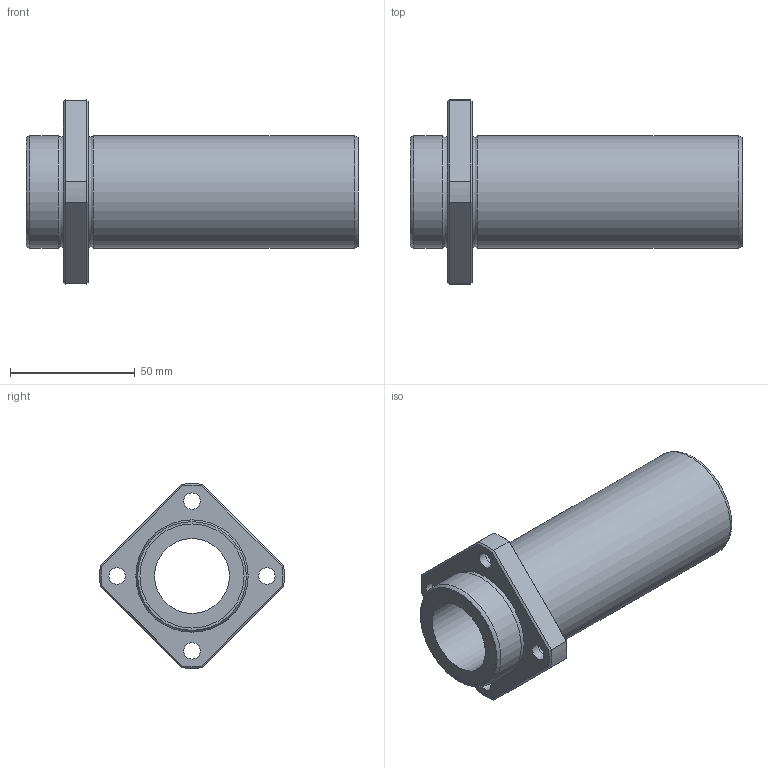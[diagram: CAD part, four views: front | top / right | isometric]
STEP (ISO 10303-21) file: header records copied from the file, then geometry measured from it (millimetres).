
FILE_DESCRIPTION((''),'2;1');
FILE_NAME('D:\製品 (図面)\カタログ用3D\メンテナンスフリー関連\STEP形式\LFDKB-MF\LFDKB30MF.stp','2010-06-01T15:41:42',('Tsuchiya'),(''),'Autodesk Inventor 10','Autodesk Inventor 10','');
FILE_SCHEMA(('AUTOMOTIVE_DESIGN { 1 0 10303 214 1 1 1 1 }'));
Length unit declared in the file: millimetre
Products named in the file (1): LFDKB30MF
Bounding box: 133 x 73.95 x 73.95 mm (x, y, z)
Volume: 131045.3 mm3; surface area: 37997.3 mm2
Topology: 1 solids, 1 shells, 51 faces, 103 edges, 62 vertices
Faces by surface type: plane 18, bspline 14, cylinder 9, cone 8, torus 2
Full cylindrical faces by diameter (mm): 30 x1, 41.7 x2, 45 x2
Entity records: 1517 total; most frequent: CARTESIAN_POINT 520, DIRECTION 192, ORIENTED_EDGE 172, EDGE_CURVE 86, EDGE_LOOP 86, AXIS2_PLACEMENT_3D 84, VERTEX_POINT 62, FACE_OUTER_BOUND 51
